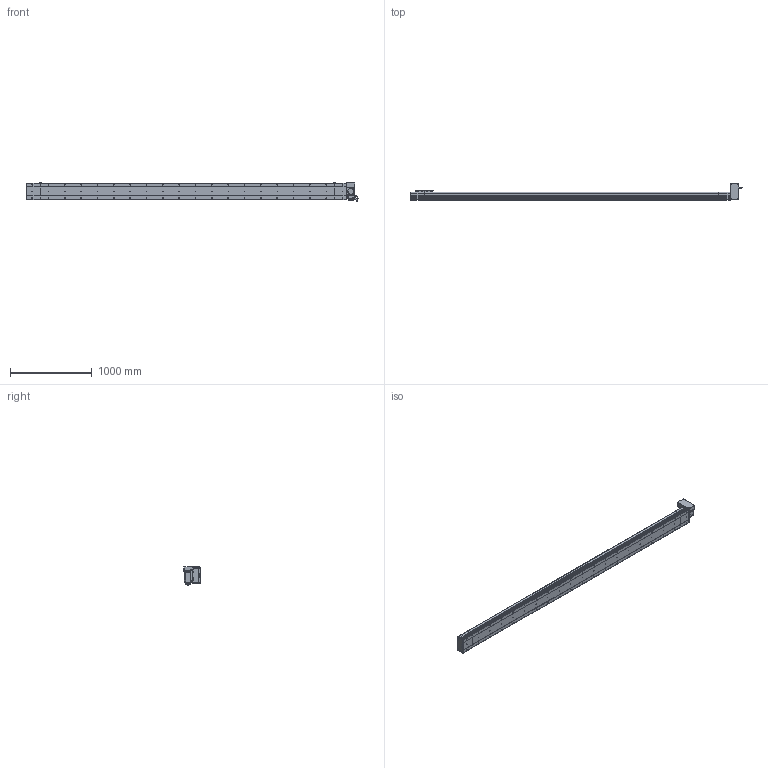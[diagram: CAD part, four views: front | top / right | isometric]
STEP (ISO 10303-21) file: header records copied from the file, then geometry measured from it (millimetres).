
FILE_DESCRIPTION (( 'STEP AP214' ), '1' );
FILE_NAME ('D20 CBH LT S3600.STEP', '2010-06-30T11:03:44', ( 'Conseil Régional Haute-Normandie' ), ( 'Conseil Régional Haute-Normandie' ), 'SwSTEP 2.0', 'SolidWorks 2010', '' );
FILE_SCHEMA (( 'AUTOMOTIVE_DESIGN' ));
Length unit declared in the file: millimetre
Products named in the file (31): Plaque De Serrage D20 LT_Default; Plaque de Bout Head D20 LT_Default; Support moteur LT_Default; Conecteur_Default; Rondelle Cache D20 LT_Default; Head LT_Default; Corp Tail D20 LT_Default; Couvercle LT_Default; D20 CBH LT S3600; ecrou_Default; avant 90BLDC125A-640; Cache Support Moteur LT_Default; Conecteur2_Default; corps 90BLDC125A-640; codeur 90BLDC125-640; Moteur motionking 90BLDC125A-640; Corp Tail D20_Default; Plaque de Bout Tail D20_Default; vis M5 L30_Default; Tail D20_Default; Glissiere_Default; Support Chariot D20_Default; Corp D20 S3600_Default; Chariot D20_Default; Couvercle S3600_Default; vis M5 L47_Default; Corp S3600_Default; Couvercle_Default; vis M5 L15_Default; Plaque De Serrage D20_Default
Assembly tree (66 placements, depth 4):
  D20 CBH LT S3600
    Head LT_Default
      vis M5 L47_Default  x4
      Couvercle LT_Default
      vis M5 L15_Default  x12
      ecrou_Default  x4
      Support moteur LT_Default
      Plaque de Bout Head D20 LT_Default
      Cache Support Moteur LT_Default
      Plaque De Serrage D20 LT_Default
      vis M5 L30_Default  x4
      Rondelle Cache D20 LT_Default  x3
      Corp Tail D20 LT_Default
      Moteur motionking 90BLDC125A-640
        Conecteur_Default
        avant 90BLDC125A-640
        codeur 90BLDC125-640
        Conecteur2_Default
        corps 90BLDC125A-640
    Tail D20_Default
      vis M5 L15_Default  x6
      Plaque de Bout Tail D20_Default
      Plaque De Serrage D20_Default
      Corp Tail D20_Default
      Couvercle_Default
    Corp D20 S3600_Default
      Corp S3600_Default
      Couvercle S3600_Default
    Chariot D20_Default
      vis M5 L15_Default  x8
      Chariot D20_Default
      Support Chariot D20_Default
      Glissiere_Default
Bounding box: 4063.45 x 202.5 x 229.7 mm (x, y, z)
Volume: 26955469.4 mm3; surface area: 5166542.7 mm2
Topology: 103 solids, 103 shells, 3855 faces, 9620 edges, 6256 vertices
Faces by surface type: plane 2122, bspline 806, cylinder 764, torus 91, cone 68, sphere 4
Entity records: 162790 total; most frequent: CARTESIAN_POINT 83575, ORIENTED_EDGE 15708, DIRECTION 12048, EDGE_CURVE 7854, VERTEX_POINT 5200, LINE 4994, VECTOR 4994, AXIS2_PLACEMENT_3D 3527
